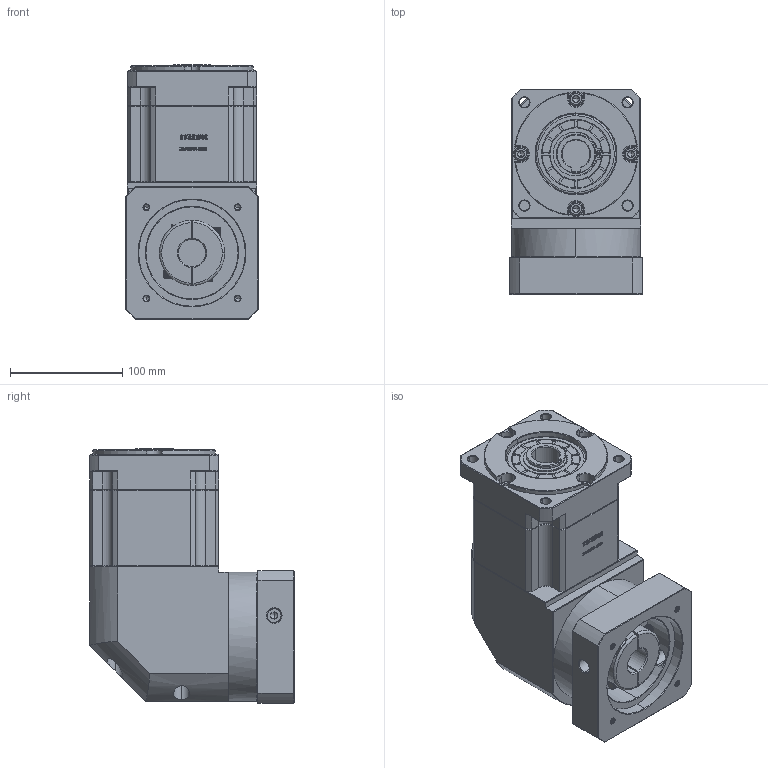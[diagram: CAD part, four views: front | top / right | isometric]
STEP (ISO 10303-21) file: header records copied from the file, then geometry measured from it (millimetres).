
FILE_DESCRIPTION (( 'STEP AP214' ), '1' );
FILE_NAME ('ZBR115A-K25-L2-24-95-115-M6.step', '2023-03-03T05:07:47', ( '' ), ( 'Microsoft' ), 'SwSTEP 2.0', 'SolidWorks 2016', '' );
FILE_SCHEMA (( 'AUTOMOTIVE_DESIGN' ));
Length unit declared in the file: millimetre
Products named in the file (1): ZBR115A-K25-L2-24-95-115-M6
Bounding box: 118 x 182.4 x 226.5 mm (x, y, z)
Volume: 3144627.4 mm3; surface area: 248425 mm2
Topology: 6 solids, 6 shells, 2913 faces, 7723 edges, 4955 vertices
Faces by surface type: plane 1551, bspline 601, cylinder 391, cone 362, torus 8
Entity records: 156608 total; most frequent: CARTESIAN_POINT 56886, ORIENTED_EDGE 15390, DIRECTION 11685, EDGE_CURVE 7695, LINE 5233, VECTOR 5233, VERTEX_POINT 4955, AXIS2_PLACEMENT_3D 3226
